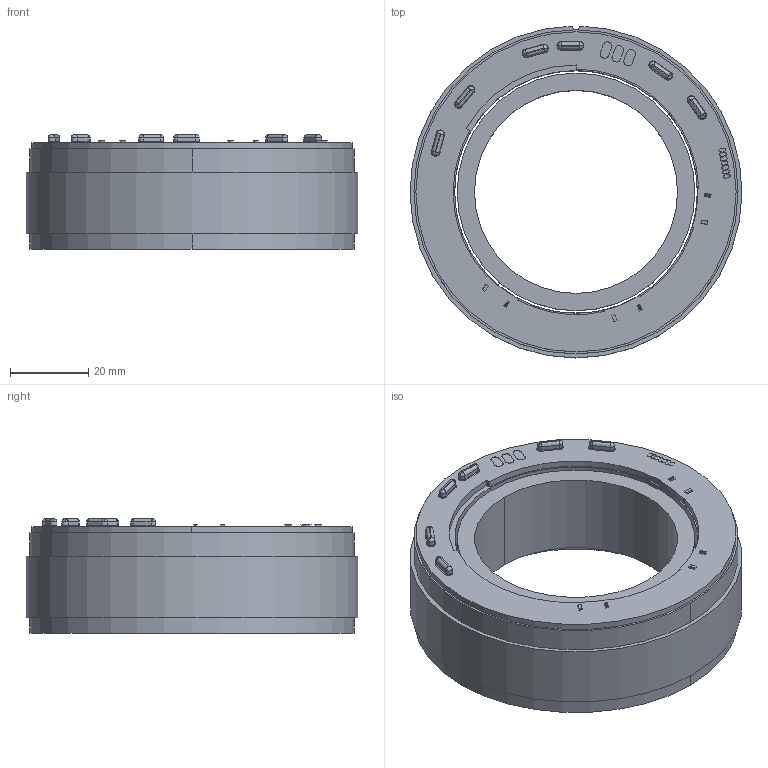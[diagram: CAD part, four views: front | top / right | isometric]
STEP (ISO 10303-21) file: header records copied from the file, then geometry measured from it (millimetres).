
FILE_DESCRIPTION (( 'STEP AP214' ), '1' );
FILE_NAME ('RI85-PH.STEP', '2026-02-25T09:57:12', ( '' ), ( '' ), 'SwSTEP 2.0', 'SolidWorks 2022', '' );
FILE_SCHEMA (( 'AUTOMOTIVE_DESIGN' ));
Length unit declared in the file: millimetre
Products named in the file (1): RI85-PH
Bounding box: 84.99 x 84.99 x 29.3 mm (x, y, z)
Volume: 85520.1 mm3; surface area: 27132.6 mm2
Topology: 2 solids, 56 shells, 1313 faces, 3294 edges, 2136 vertices
Faces by surface type: plane 695, bspline 366, cylinder 210, torus 42
Entity records: 60145 total; most frequent: CARTESIAN_POINT 30828, ORIENTED_EDGE 6540, DIRECTION 5026, EDGE_CURVE 3270, VERTEX_POINT 2136, VECTOR 2042, LINE 2042, AXIS2_PLACEMENT_3D 1492
